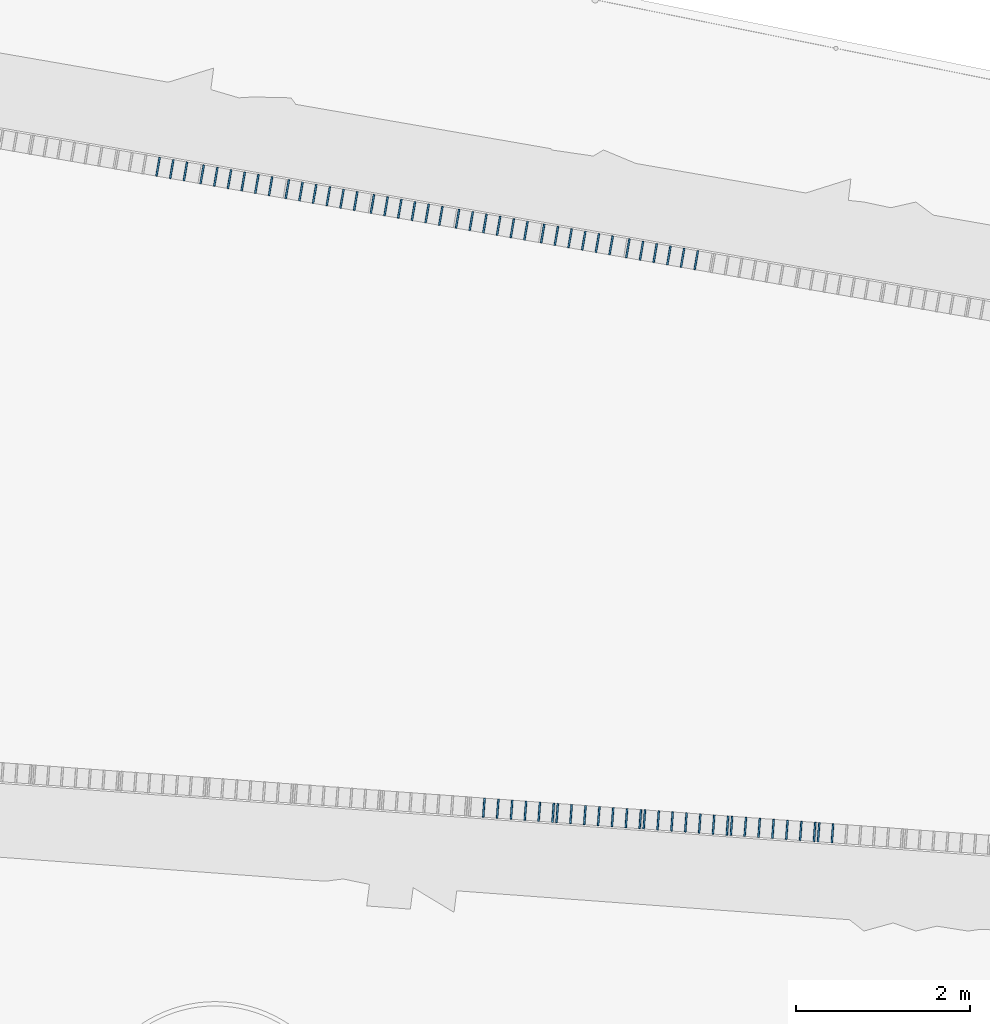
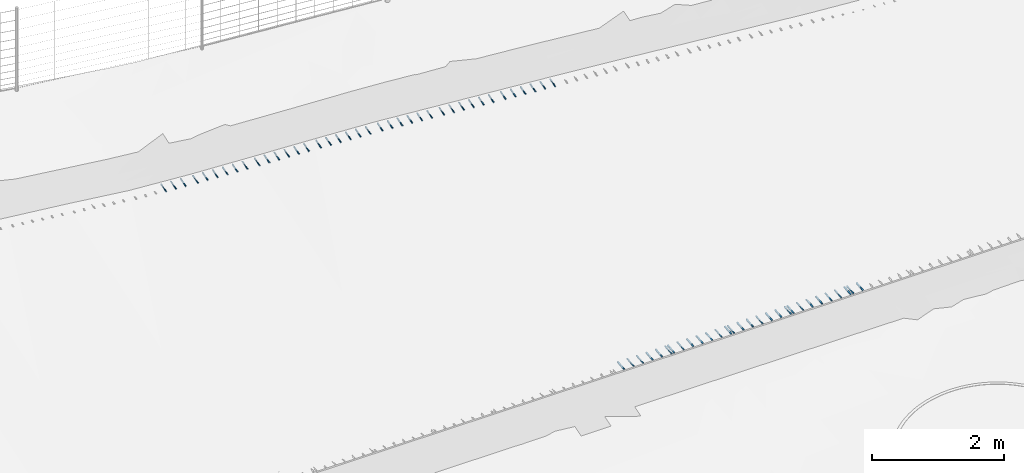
# Not in any storey, part 18 of 72: 68 members.
"""IFC4 model written with IfcOpenShell, lengths in metres."""

from ifc_helpers import new_model, si_unit, direction, frame, origin_with_axes, place, context, subcontext, project, spatial, rectangle, extrude, material, material_profile, profile_set, profile_usage, type_object, element, save


model = new_model("IFC4")

# Units and contexts
model_context = context("Model", 3, precision=1e-05, world=origin_with_axes(), true_north=direction((0.0, 1.0)))
body_context = subcontext(model_context, "Body", "Model", "MODEL_VIEW")
ifc_project = project(units=[si_unit("AREAUNIT", "SQUARE_METRE"), si_unit("VOLUMEUNIT", "CUBIC_METRE"), si_unit("LENGTHUNIT", "METRE")], contexts=[model_context])

# Site
site_placement = place(None, origin_with_axes())
site = spatial("IfcSite", under=ifc_project, at=site_placement, Name="Lares · Rua das Mercês · artigo 4771")

# Members
ifc_material = material(Name="Aço galvanizado / Stahl verzinkt", Category="steel")
ifc_material_profile = material_profile(ifc_material, rectangle(XDim=0.018, YDim=0.018))
ifc_profile_set = profile_set([ifc_material_profile], Name="R0.018")
ifc_profile_usage_1 = profile_usage(ifc_profile_set)
member_type = type_object("IfcMemberType", Name="R0.018 / galvanized", PredefinedType="NOTDEFINED", material=ifc_profile_set)
member_1_placement = place(site_placement, frame((63.9081223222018, 1.95257921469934, 15.0444120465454), z_axis=(0.0733052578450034, 0.997309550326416, 0.0), x_axis=(0.997309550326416, -0.0733052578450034, 0.0)))
element("IfcMember", 1, at=member_1_placement, inside=site, type_object=member_type, material=ifc_profile_usage_1, Name="Acesso · dreno lateral raso · grelha", context=body_context, shape_type="SweptSolid", body=[
    extrude(rectangle(XDim=0.018, YDim=0.018), origin_with_axes(), (0.0, 0.0, 1.0), 0.22),
])
ifc_profile_usage_2 = profile_usage(ifc_profile_set)
member_2_placement = place(site_placement, frame((64.067691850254, 1.94085037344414, 15.0536781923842), z_axis=(0.0733052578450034, 0.997309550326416, 0.0), x_axis=(0.997309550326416, -0.0733052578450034, 0.0)))
element("IfcMember", 2, at=member_2_placement, inside=site, type_object=member_type, material=ifc_profile_usage_2, Name="Acesso · dreno lateral raso · grelha", context=body_context, shape_type="SweptSolid", body=[
    extrude(rectangle(XDim=0.018, YDim=0.018), origin_with_axes(), (0.0, 0.0, 1.0), 0.22),
])
ifc_profile_usage_3 = profile_usage(ifc_profile_set)
member_3_placement = place(site_placement, frame((64.2272613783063, 1.92912153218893, 15.062944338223), z_axis=(0.0733052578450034, 0.997309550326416, 0.0), x_axis=(0.997309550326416, -0.0733052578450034, 0.0)))
element("IfcMember", 3, at=member_3_placement, inside=site, type_object=member_type, material=ifc_profile_usage_3, Name="Acesso · dreno lateral raso · grelha", context=body_context, shape_type="SweptSolid", body=[
    extrude(rectangle(XDim=0.018, YDim=0.018), origin_with_axes(), (0.0, 0.0, 1.0), 0.22),
])
ifc_profile_usage_4 = profile_usage(ifc_profile_set)
member_4_placement = place(site_placement, frame((64.3868309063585, 1.91739269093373, 15.0722104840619), z_axis=(0.0733052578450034, 0.997309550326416, 0.0), x_axis=(0.997309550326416, -0.0733052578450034, 0.0)))
element("IfcMember", 4, at=member_4_placement, inside=site, type_object=member_type, material=ifc_profile_usage_4, Name="Acesso · dreno lateral raso · grelha", context=body_context, shape_type="SweptSolid", body=[
    extrude(rectangle(XDim=0.018, YDim=0.018), origin_with_axes(), (0.0, 0.0, 1.0), 0.22),
])
ifc_profile_usage_5 = profile_usage(ifc_profile_set)
member_5_placement = place(site_placement, frame((64.5464004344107, 1.90566384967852, 15.0814766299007), z_axis=(0.0733052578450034, 0.997309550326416, 0.0), x_axis=(0.997309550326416, -0.0733052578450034, 0.0)))
element("IfcMember", 5, at=member_5_placement, inside=site, type_object=member_type, material=ifc_profile_usage_5, Name="Acesso · dreno lateral raso · grelha", context=body_context, shape_type="SweptSolid", body=[
    extrude(rectangle(XDim=0.018, YDim=0.018), origin_with_axes(), (0.0, 0.0, 1.0), 0.22),
])
ifc_profile_usage_6 = profile_usage(ifc_profile_set)
member_6_placement = place(site_placement, frame((64.7059699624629, 1.89393500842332, 15.0907427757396), z_axis=(0.0733052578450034, 0.997309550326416, 0.0), x_axis=(0.997309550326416, -0.0733052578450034, 0.0)))
element("IfcMember", 6, at=member_6_placement, inside=site, type_object=member_type, material=ifc_profile_usage_6, Name="Acesso · dreno lateral raso · grelha", context=body_context, shape_type="SweptSolid", body=[
    extrude(rectangle(XDim=0.018, YDim=0.018), origin_with_axes(), (0.0, 0.0, 1.0), 0.22),
])
ifc_profile_usage_7 = profile_usage(ifc_profile_set)
member_7_placement = place(site_placement, frame((64.7526489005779, 1.89050396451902, 15.0934534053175), z_axis=(0.0733052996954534, 0.997309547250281, 0.0), x_axis=(0.997309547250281, -0.0733052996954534, 0.0)))
element("IfcMember", 7, at=member_7_placement, inside=site, type_object=member_type, material=ifc_profile_usage_7, Name="Acesso · dreno lateral raso · grelha", context=body_context, shape_type="SweptSolid", body=[
    extrude(rectangle(XDim=0.018, YDim=0.018), origin_with_axes(), (0.0, 0.0, 1.0), 0.220000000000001),
])
ifc_profile_usage_8 = profile_usage(ifc_profile_set)
member_8_placement = place(site_placement, frame((64.9122184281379, 1.87877511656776, 15.1027195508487), z_axis=(0.0733052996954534, 0.997309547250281, 0.0), x_axis=(0.997309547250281, -0.0733052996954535, 0.0)))
element("IfcMember", 8, at=member_8_placement, inside=site, type_object=member_type, material=ifc_profile_usage_8, Name="Acesso · dreno lateral raso · grelha", context=body_context, shape_type="SweptSolid", body=[
    extrude(rectangle(XDim=0.018, YDim=0.018), origin_with_axes(), (0.0, 0.0, 1.0), 0.22),
])
ifc_profile_usage_9 = profile_usage(ifc_profile_set)
member_9_placement = place(site_placement, frame((65.0717879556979, 1.86704626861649, 15.1119856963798), z_axis=(0.0733052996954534, 0.997309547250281, 0.0), x_axis=(0.997309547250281, -0.0733052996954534, 0.0)))
element("IfcMember", 9, at=member_9_placement, inside=site, type_object=member_type, material=ifc_profile_usage_9, Name="Acesso · dreno lateral raso · grelha", context=body_context, shape_type="SweptSolid", body=[
    extrude(rectangle(XDim=0.018, YDim=0.018), origin_with_axes(), (0.0, 0.0, 1.0), 0.220000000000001),
])
ifc_profile_usage_10 = profile_usage(ifc_profile_set)
member_10_placement = place(site_placement, frame((65.231357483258, 1.85531742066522, 15.1212518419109), z_axis=(0.0733052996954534, 0.997309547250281, 0.0), x_axis=(0.997309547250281, -0.0733052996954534, 0.0)))
element("IfcMember", 10, at=member_10_placement, inside=site, type_object=member_type, material=ifc_profile_usage_10, Name="Acesso · dreno lateral raso · grelha", context=body_context, shape_type="SweptSolid", body=[
    extrude(rectangle(XDim=0.018, YDim=0.018), origin_with_axes(), (0.0, 0.0, 1.0), 0.220000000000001),
])
ifc_profile_usage_11 = profile_usage(ifc_profile_set)
member_11_placement = place(site_placement, frame((65.390927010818, 1.84358857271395, 15.130517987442), z_axis=(0.0733052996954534, 0.997309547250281, 0.0), x_axis=(0.997309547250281, -0.0733052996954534, 0.0)))
element("IfcMember", 11, at=member_11_placement, inside=site, type_object=member_type, material=ifc_profile_usage_11, Name="Acesso · dreno lateral raso · grelha", context=body_context, shape_type="SweptSolid", body=[
    extrude(rectangle(XDim=0.018, YDim=0.018), origin_with_axes(), (0.0, 0.0, 1.0), 0.220000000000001),
])
ifc_profile_usage_12 = profile_usage(ifc_profile_set)
member_12_placement = place(site_placement, frame((65.5504965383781, 1.83185972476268, 15.1397841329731), z_axis=(0.0733052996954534, 0.997309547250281, 0.0), x_axis=(0.997309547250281, -0.0733052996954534, 0.0)))
element("IfcMember", 12, at=member_12_placement, inside=site, type_object=member_type, material=ifc_profile_usage_12, Name="Acesso · dreno lateral raso · grelha", context=body_context, shape_type="SweptSolid", body=[
    extrude(rectangle(XDim=0.018, YDim=0.018), origin_with_axes(), (0.0, 0.0, 1.0), 0.220000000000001),
])
ifc_profile_usage_13 = profile_usage(ifc_profile_set)
member_13_placement = place(site_placement, frame((65.7100660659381, 1.82013087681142, 15.1490502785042), z_axis=(0.0733052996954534, 0.997309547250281, 0.0), x_axis=(0.997309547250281, -0.0733052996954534, 0.0)))
element("IfcMember", 13, at=member_13_placement, inside=site, type_object=member_type, material=ifc_profile_usage_13, Name="Acesso · dreno lateral raso · grelha", context=body_context, shape_type="SweptSolid", body=[
    extrude(rectangle(XDim=0.018, YDim=0.018), origin_with_axes(), (0.0, 0.0, 1.0), 0.220000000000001),
])
ifc_profile_usage_14 = profile_usage(ifc_profile_set)
member_14_placement = place(site_placement, frame((65.7567387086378, 1.81670029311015, 15.1518014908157), z_axis=(0.0733053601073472, 0.99730954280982, 0.0), x_axis=(0.99730954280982, -0.0733053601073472, 0.0)))
element("IfcMember", 14, at=member_14_placement, inside=site, type_object=member_type, material=ifc_profile_usage_14, Name="Acesso · dreno lateral raso · grelha", context=body_context, shape_type="SweptSolid", body=[
    extrude(rectangle(XDim=0.018, YDim=0.018), origin_with_axes(), (0.0, 0.0, 1.0), 0.22),
])
ifc_profile_usage_15 = profile_usage(ifc_profile_set)
member_15_placement = place(site_placement, frame((65.9163082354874, 1.80497143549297, 15.1612860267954), z_axis=(0.0733053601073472, 0.99730954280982, 0.0), x_axis=(0.99730954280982, -0.0733053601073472, 0.0)))
element("IfcMember", 15, at=member_15_placement, inside=site, type_object=member_type, material=ifc_profile_usage_15, Name="Acesso · dreno lateral raso · grelha", context=body_context, shape_type="SweptSolid", body=[
    extrude(rectangle(XDim=0.018, YDim=0.018), origin_with_axes(), (0.0, 0.0, 1.0), 0.22),
])
ifc_profile_usage_16 = profile_usage(ifc_profile_set)
member_16_placement = place(site_placement, frame((66.0758777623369, 1.7932425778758, 15.1707705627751), z_axis=(0.0733053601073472, 0.99730954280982, 0.0), x_axis=(0.99730954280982, -0.0733053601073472, 0.0)))
element("IfcMember", 16, at=member_16_placement, inside=site, type_object=member_type, material=ifc_profile_usage_16, Name="Acesso · dreno lateral raso · grelha", context=body_context, shape_type="SweptSolid", body=[
    extrude(rectangle(XDim=0.018, YDim=0.018), origin_with_axes(), (0.0, 0.0, 1.0), 0.22),
])
ifc_profile_usage_17 = profile_usage(ifc_profile_set)
member_17_placement = place(site_placement, frame((66.2354472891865, 1.78151372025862, 15.1802550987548), z_axis=(0.0733053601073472, 0.99730954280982, 0.0), x_axis=(0.99730954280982, -0.0733053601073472, 0.0)))
element("IfcMember", 17, at=member_17_placement, inside=site, type_object=member_type, material=ifc_profile_usage_17, Name="Acesso · dreno lateral raso · grelha", context=body_context, shape_type="SweptSolid", body=[
    extrude(rectangle(XDim=0.018, YDim=0.018), origin_with_axes(), (0.0, 0.0, 1.0), 0.22),
])
ifc_profile_usage_18 = profile_usage(ifc_profile_set)
member_18_placement = place(site_placement, frame((66.3950168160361, 1.76978486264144, 15.1897396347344), z_axis=(0.0733053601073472, 0.99730954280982, 0.0), x_axis=(0.99730954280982, -0.0733053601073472, 0.0)))
element("IfcMember", 18, at=member_18_placement, inside=site, type_object=member_type, material=ifc_profile_usage_18, Name="Acesso · dreno lateral raso · grelha", context=body_context, shape_type="SweptSolid", body=[
    extrude(rectangle(XDim=0.018, YDim=0.018), origin_with_axes(), (0.0, 0.0, 1.0), 0.22),
])
ifc_profile_usage_19 = profile_usage(ifc_profile_set)
member_19_placement = place(site_placement, frame((66.5545863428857, 1.75805600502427, 15.1992241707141), z_axis=(0.0733053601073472, 0.99730954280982, 0.0), x_axis=(0.99730954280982, -0.0733053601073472, 0.0)))
element("IfcMember", 19, at=member_19_placement, inside=site, type_object=member_type, material=ifc_profile_usage_19, Name="Acesso · dreno lateral raso · grelha", context=body_context, shape_type="SweptSolid", body=[
    extrude(rectangle(XDim=0.018, YDim=0.018), origin_with_axes(), (0.0, 0.0, 1.0), 0.22),
])
ifc_profile_usage_20 = profile_usage(ifc_profile_set)
member_20_placement = place(site_placement, frame((66.7141558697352, 1.7463271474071, 15.2087087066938), z_axis=(0.0733053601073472, 0.99730954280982, 0.0), x_axis=(0.99730954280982, -0.0733053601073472, 0.0)))
element("IfcMember", 20, at=member_20_placement, inside=site, type_object=member_type, material=ifc_profile_usage_20, Name="Acesso · dreno lateral raso · grelha", context=body_context, shape_type="SweptSolid", body=[
    extrude(rectangle(XDim=0.018, YDim=0.018), origin_with_axes(), (0.0, 0.0, 1.0), 0.22),
])
ifc_profile_usage_21 = profile_usage(ifc_profile_set)
member_21_placement = place(site_placement, frame((66.7608219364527, 1.74289704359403, 15.2114842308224), z_axis=(0.0733054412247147, 0.997309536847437, 0.0), x_axis=(0.997309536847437, -0.0733054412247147, 0.0)))
element("IfcMember", 21, at=member_21_placement, inside=site, type_object=member_type, material=ifc_profile_usage_21, Name="Acesso · dreno lateral raso · grelha", context=body_context, shape_type="SweptSolid", body=[
    extrude(rectangle(XDim=0.018, YDim=0.018), origin_with_axes(), (0.0, 0.0, 1.0), 0.22),
])
ifc_profile_usage_22 = profile_usage(ifc_profile_set)
member_22_placement = place(site_placement, frame((66.9203914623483, 1.73116817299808, 15.2209782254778), z_axis=(0.0733054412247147, 0.997309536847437, 0.0), x_axis=(0.997309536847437, -0.0733054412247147, 0.0)))
element("IfcMember", 22, at=member_22_placement, inside=site, type_object=member_type, material=ifc_profile_usage_22, Name="Acesso · dreno lateral raso · grelha", context=body_context, shape_type="SweptSolid", body=[
    extrude(rectangle(XDim=0.018, YDim=0.018), origin_with_axes(), (0.0, 0.0, 1.0), 0.22),
])
ifc_profile_usage_23 = profile_usage(ifc_profile_set)
member_23_placement = place(site_placement, frame((67.0799609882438, 1.71943930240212, 15.2304722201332), z_axis=(0.0733054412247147, 0.997309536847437, 0.0), x_axis=(0.997309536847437, -0.0733054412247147, 0.0)))
element("IfcMember", 23, at=member_23_placement, inside=site, type_object=member_type, material=ifc_profile_usage_23, Name="Acesso · dreno lateral raso · grelha", context=body_context, shape_type="SweptSolid", body=[
    extrude(rectangle(XDim=0.018, YDim=0.018), origin_with_axes(), (0.0, 0.0, 1.0), 0.22),
])
ifc_profile_usage_24 = profile_usage(ifc_profile_set)
member_24_placement = place(site_placement, frame((67.2395305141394, 1.70771043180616, 15.2399662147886), z_axis=(0.0733054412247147, 0.997309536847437, 0.0), x_axis=(0.997309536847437, -0.0733054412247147, 0.0)))
element("IfcMember", 24, at=member_24_placement, inside=site, type_object=member_type, material=ifc_profile_usage_24, Name="Acesso · dreno lateral raso · grelha", context=body_context, shape_type="SweptSolid", body=[
    extrude(rectangle(XDim=0.018, YDim=0.018), origin_with_axes(), (0.0, 0.0, 1.0), 0.22),
])
ifc_profile_usage_25 = profile_usage(ifc_profile_set)
member_25_placement = place(site_placement, frame((67.399100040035, 1.69598156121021, 15.249460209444), z_axis=(0.0733054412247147, 0.997309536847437, 0.0), x_axis=(0.997309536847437, -0.0733054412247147, 0.0)))
element("IfcMember", 25, at=member_25_placement, inside=site, type_object=member_type, material=ifc_profile_usage_25, Name="Acesso · dreno lateral raso · grelha", context=body_context, shape_type="SweptSolid", body=[
    extrude(rectangle(XDim=0.018, YDim=0.018), origin_with_axes(), (0.0, 0.0, 1.0), 0.22),
])
ifc_profile_usage_26 = profile_usage(ifc_profile_set)
member_26_placement = place(site_placement, frame((67.5586695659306, 1.68425269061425, 15.2589542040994), z_axis=(0.0733054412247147, 0.997309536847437, 0.0), x_axis=(0.997309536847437, -0.0733054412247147, 0.0)))
element("IfcMember", 26, at=member_26_placement, inside=site, type_object=member_type, material=ifc_profile_usage_26, Name="Acesso · dreno lateral raso · grelha", context=body_context, shape_type="SweptSolid", body=[
    extrude(rectangle(XDim=0.018, YDim=0.018), origin_with_axes(), (0.0, 0.0, 1.0), 0.22),
])
ifc_profile_usage_27 = profile_usage(ifc_profile_set)
member_27_placement = place(site_placement, frame((67.7182390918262, 1.6725238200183, 15.2684481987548), z_axis=(0.0733054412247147, 0.997309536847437, 0.0), x_axis=(0.997309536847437, -0.0733054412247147, 0.0)))
element("IfcMember", 27, at=member_27_placement, inside=site, type_object=member_type, material=ifc_profile_usage_27, Name="Acesso · dreno lateral raso · grelha", context=body_context, shape_type="SweptSolid", body=[
    extrude(rectangle(XDim=0.018, YDim=0.018), origin_with_axes(), (0.0, 0.0, 1.0), 0.22),
])
ifc_profile_usage_28 = profile_usage(ifc_profile_set)
member_28_placement = place(site_placement, frame((67.7648982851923, 1.66909421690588, 15.2712243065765), z_axis=(0.0733055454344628, 0.997309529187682, 0.0), x_axis=(0.997309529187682, -0.0733055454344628, 0.0)))
element("IfcMember", 28, at=member_28_placement, inside=site, type_object=member_type, material=ifc_profile_usage_28, Name="Acesso · dreno lateral raso · grelha", context=body_context, shape_type="SweptSolid", body=[
    extrude(rectangle(XDim=0.018, YDim=0.018), origin_with_axes(), (0.0, 0.0, 1.0), 0.219999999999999),
])
ifc_profile_usage_29 = profile_usage(ifc_profile_set)
member_29_placement = place(site_placement, frame((67.9244678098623, 1.65736532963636, 15.2807183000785), z_axis=(0.0733055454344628, 0.997309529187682, 0.0), x_axis=(0.997309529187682, -0.0733055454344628, 0.0)))
element("IfcMember", 29, at=member_29_placement, inside=site, type_object=member_type, material=ifc_profile_usage_29, Name="Acesso · dreno lateral raso · grelha", context=body_context, shape_type="SweptSolid", body=[
    extrude(rectangle(XDim=0.018, YDim=0.018), origin_with_axes(), (0.0, 0.0, 1.0), 0.219999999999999),
])
ifc_profile_usage_30 = profile_usage(ifc_profile_set)
member_30_placement = place(site_placement, frame((60.1432978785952, 9.3389832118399, 15.1773439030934), z_axis=(0.171145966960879, 0.98524568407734, 0.0), x_axis=(0.98524568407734, -0.171145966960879, 0.0)))
element("IfcMember", 30, at=member_30_placement, inside=site, type_object=member_type, material=ifc_profile_usage_30, Name="Acesso · dreno lateral raso · grelha", context=body_context, shape_type="SweptSolid", body=[
    extrude(rectangle(XDim=0.018, YDim=0.018), origin_with_axes(), (0.0, 0.0, 1.0), 0.220000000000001),
])
ifc_profile_usage_31 = profile_usage(ifc_profile_set)
member_31_placement = place(site_placement, frame((60.3009371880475, 9.31159985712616, 15.1873326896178), z_axis=(0.171145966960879, 0.98524568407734, 0.0), x_axis=(0.98524568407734, -0.171145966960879, 0.0)))
element("IfcMember", 31, at=member_31_placement, inside=site, type_object=member_type, material=ifc_profile_usage_31, Name="Acesso · dreno lateral raso · grelha", context=body_context, shape_type="SweptSolid", body=[
    extrude(rectangle(XDim=0.018, YDim=0.018), origin_with_axes(), (0.0, 0.0, 1.0), 0.220000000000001),
])
ifc_profile_usage_32 = profile_usage(ifc_profile_set)
member_32_placement = place(site_placement, frame((60.4585764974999, 9.28421650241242, 15.1973214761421), z_axis=(0.171145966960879, 0.98524568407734, 0.0), x_axis=(0.98524568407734, -0.171145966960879, 0.0)))
element("IfcMember", 32, at=member_32_placement, inside=site, type_object=member_type, material=ifc_profile_usage_32, Name="Acesso · dreno lateral raso · grelha", context=body_context, shape_type="SweptSolid", body=[
    extrude(rectangle(XDim=0.018, YDim=0.018), origin_with_axes(), (0.0, 0.0, 1.0), 0.220000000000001),
])
ifc_profile_usage_33 = profile_usage(ifc_profile_set)
member_33_placement = place(site_placement, frame((60.6512918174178, 9.25074014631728, 15.2102114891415), z_axis=(0.171145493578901, 0.985245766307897, 0.0), x_axis=(0.985245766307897, -0.171145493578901, 0.0)))
element("IfcMember", 33, at=member_33_placement, inside=site, type_object=member_type, material=ifc_profile_usage_33, Name="Acesso · dreno lateral raso · grelha", context=body_context, shape_type="SweptSolid", body=[
    extrude(rectangle(XDim=0.018, YDim=0.018), origin_with_axes(), (0.0, 0.0, 1.0), 0.219999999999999),
])
ifc_profile_usage_34 = profile_usage(ifc_profile_set)
member_34_placement = place(site_placement, frame((60.808931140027, 9.22335686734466, 15.2238197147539), z_axis=(0.171145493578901, 0.985245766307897, 0.0), x_axis=(0.985245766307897, -0.171145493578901, 0.0)))
element("IfcMember", 34, at=member_34_placement, inside=site, type_object=member_type, material=ifc_profile_usage_34, Name="Acesso · dreno lateral raso · grelha", context=body_context, shape_type="SweptSolid", body=[
    extrude(rectangle(XDim=0.018, YDim=0.018), origin_with_axes(), (0.0, 0.0, 1.0), 0.219999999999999),
])
ifc_profile_usage_35 = profile_usage(ifc_profile_set)
member_35_placement = place(site_placement, frame((60.9665704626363, 9.19597358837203, 15.2374279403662), z_axis=(0.171145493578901, 0.985245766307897, 0.0), x_axis=(0.985245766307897, -0.171145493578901, 0.0)))
element("IfcMember", 35, at=member_35_placement, inside=site, type_object=member_type, material=ifc_profile_usage_35, Name="Acesso · dreno lateral raso · grelha", context=body_context, shape_type="SweptSolid", body=[
    extrude(rectangle(XDim=0.018, YDim=0.018), origin_with_axes(), (0.0, 0.0, 1.0), 0.219999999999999),
])
ifc_profile_usage_36 = profile_usage(ifc_profile_set)
member_36_placement = place(site_placement, frame((61.1242097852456, 9.16859030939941, 15.2510361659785), z_axis=(0.171145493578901, 0.985245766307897, 0.0), x_axis=(0.985245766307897, -0.171145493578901, 0.0)))
element("IfcMember", 36, at=member_36_placement, inside=site, type_object=member_type, material=ifc_profile_usage_36, Name="Acesso · dreno lateral raso · grelha", context=body_context, shape_type="SweptSolid", body=[
    extrude(rectangle(XDim=0.018, YDim=0.018), origin_with_axes(), (0.0, 0.0, 1.0), 0.219999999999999),
])
ifc_profile_usage_37 = profile_usage(ifc_profile_set)
member_37_placement = place(site_placement, frame((61.2818491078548, 9.14120703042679, 15.2646443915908), z_axis=(0.171145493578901, 0.985245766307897, 0.0), x_axis=(0.985245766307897, -0.171145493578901, 0.0)))
element("IfcMember", 37, at=member_37_placement, inside=site, type_object=member_type, material=ifc_profile_usage_37, Name="Acesso · dreno lateral raso · grelha", context=body_context, shape_type="SweptSolid", body=[
    extrude(rectangle(XDim=0.018, YDim=0.018), origin_with_axes(), (0.0, 0.0, 1.0), 0.219999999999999),
])
ifc_profile_usage_38 = profile_usage(ifc_profile_set)
member_38_placement = place(site_placement, frame((61.4394884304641, 9.11382375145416, 15.2782526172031), z_axis=(0.171145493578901, 0.985245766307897, 0.0), x_axis=(0.985245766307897, -0.171145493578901, 0.0)))
element("IfcMember", 38, at=member_38_placement, inside=site, type_object=member_type, material=ifc_profile_usage_38, Name="Acesso · dreno lateral raso · grelha", context=body_context, shape_type="SweptSolid", body=[
    extrude(rectangle(XDim=0.018, YDim=0.018), origin_with_axes(), (0.0, 0.0, 1.0), 0.219999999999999),
])
ifc_profile_usage_39 = profile_usage(ifc_profile_set)
member_39_placement = place(site_placement, frame((61.6322087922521, 9.08034661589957, 15.2949844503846), z_axis=(0.171144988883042, 0.985245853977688, 0.0), x_axis=(0.985245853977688, -0.171144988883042, 0.0)))
element("IfcMember", 39, at=member_39_placement, inside=site, type_object=member_type, material=ifc_profile_usage_39, Name="Acesso · dreno lateral raso · grelha", context=body_context, shape_type="SweptSolid", body=[
    extrude(rectangle(XDim=0.018, YDim=0.018), origin_with_axes(), (0.0, 0.0, 1.0), 0.220000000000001),
])
ifc_profile_usage_40 = profile_usage(ifc_profile_set)
member_40_placement = place(site_placement, frame((61.7898481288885, 9.05296341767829, 15.3091006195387), z_axis=(0.171144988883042, 0.985245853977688, 0.0), x_axis=(0.985245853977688, -0.171144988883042, 0.0)))
element("IfcMember", 40, at=member_40_placement, inside=site, type_object=member_type, material=ifc_profile_usage_40, Name="Acesso · dreno lateral raso · grelha", context=body_context, shape_type="SweptSolid", body=[
    extrude(rectangle(XDim=0.018, YDim=0.018), origin_with_axes(), (0.0, 0.0, 1.0), 0.220000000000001),
])
ifc_profile_usage_41 = profile_usage(ifc_profile_set)
member_41_placement = place(site_placement, frame((61.9474874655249, 9.025580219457, 15.3232167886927), z_axis=(0.171144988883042, 0.985245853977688, 0.0), x_axis=(0.985245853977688, -0.171144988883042, 0.0)))
element("IfcMember", 41, at=member_41_placement, inside=site, type_object=member_type, material=ifc_profile_usage_41, Name="Acesso · dreno lateral raso · grelha", context=body_context, shape_type="SweptSolid", body=[
    extrude(rectangle(XDim=0.018, YDim=0.018), origin_with_axes(), (0.0, 0.0, 1.0), 0.220000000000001),
])
ifc_profile_usage_42 = profile_usage(ifc_profile_set)
member_42_placement = place(site_placement, frame((62.1051268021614, 8.99819702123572, 15.3373329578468), z_axis=(0.171144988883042, 0.985245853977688, 0.0), x_axis=(0.985245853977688, -0.171144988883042, 0.0)))
element("IfcMember", 42, at=member_42_placement, inside=site, type_object=member_type, material=ifc_profile_usage_42, Name="Acesso · dreno lateral raso · grelha", context=body_context, shape_type="SweptSolid", body=[
    extrude(rectangle(XDim=0.018, YDim=0.018), origin_with_axes(), (0.0, 0.0, 1.0), 0.220000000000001),
])
ifc_profile_usage_43 = profile_usage(ifc_profile_set)
member_43_placement = place(site_placement, frame((62.2627661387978, 8.97081382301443, 15.3514491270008), z_axis=(0.171144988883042, 0.985245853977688, 0.0), x_axis=(0.985245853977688, -0.171144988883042, 0.0)))
element("IfcMember", 43, at=member_43_placement, inside=site, type_object=member_type, material=ifc_profile_usage_43, Name="Acesso · dreno lateral raso · grelha", context=body_context, shape_type="SweptSolid", body=[
    extrude(rectangle(XDim=0.018, YDim=0.018), origin_with_axes(), (0.0, 0.0, 1.0), 0.220000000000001),
])
ifc_profile_usage_44 = profile_usage(ifc_profile_set)
member_44_placement = place(site_placement, frame((62.4204054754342, 8.94343062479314, 15.3655652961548), z_axis=(0.171144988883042, 0.985245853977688, 0.0), x_axis=(0.985245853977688, -0.171144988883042, 0.0)))
element("IfcMember", 44, at=member_44_placement, inside=site, type_object=member_type, material=ifc_profile_usage_44, Name="Acesso · dreno lateral raso · grelha", context=body_context, shape_type="SweptSolid", body=[
    extrude(rectangle(XDim=0.018, YDim=0.018), origin_with_axes(), (0.0, 0.0, 1.0), 0.220000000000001),
])
ifc_profile_usage_45 = profile_usage(ifc_profile_set)
member_45_placement = place(site_placement, frame((62.6131310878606, 8.90995267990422, 15.3825225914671), z_axis=(0.17114445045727, 0.985245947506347, 0.0), x_axis=(0.985245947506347, -0.17114445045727, 0.0)))
element("IfcMember", 45, at=member_45_placement, inside=site, type_object=member_type, material=ifc_profile_usage_45, Name="Acesso · dreno lateral raso · grelha", context=body_context, shape_type="SweptSolid", body=[
    extrude(rectangle(XDim=0.018, YDim=0.018), origin_with_axes(), (0.0, 0.0, 1.0), 0.220000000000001),
])
ifc_profile_usage_46 = profile_usage(ifc_profile_set)
member_46_placement = place(site_placement, frame((62.7707704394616, 8.88256956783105, 15.3950347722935), z_axis=(0.17114445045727, 0.985245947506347, 0.0), x_axis=(0.985245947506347, -0.17114445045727, 0.0)))
element("IfcMember", 46, at=member_46_placement, inside=site, type_object=member_type, material=ifc_profile_usage_46, Name="Acesso · dreno lateral raso · grelha", context=body_context, shape_type="SweptSolid", body=[
    extrude(rectangle(XDim=0.018, YDim=0.018), origin_with_axes(), (0.0, 0.0, 1.0), 0.220000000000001),
])
ifc_profile_usage_47 = profile_usage(ifc_profile_set)
member_47_placement = place(site_placement, frame((62.9284097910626, 8.85518645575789, 15.4075469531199), z_axis=(0.17114445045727, 0.985245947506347, 0.0), x_axis=(0.985245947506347, -0.17114445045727, 0.0)))
element("IfcMember", 47, at=member_47_placement, inside=site, type_object=member_type, material=ifc_profile_usage_47, Name="Acesso · dreno lateral raso · grelha", context=body_context, shape_type="SweptSolid", body=[
    extrude(rectangle(XDim=0.018, YDim=0.018), origin_with_axes(), (0.0, 0.0, 1.0), 0.220000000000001),
])
ifc_profile_usage_48 = profile_usage(ifc_profile_set)
member_48_placement = place(site_placement, frame((63.0860491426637, 8.82780334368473, 15.4200591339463), z_axis=(0.17114445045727, 0.985245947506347, 0.0), x_axis=(0.985245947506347, -0.17114445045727, 0.0)))
element("IfcMember", 48, at=member_48_placement, inside=site, type_object=member_type, material=ifc_profile_usage_48, Name="Acesso · dreno lateral raso · grelha", context=body_context, shape_type="SweptSolid", body=[
    extrude(rectangle(XDim=0.018, YDim=0.018), origin_with_axes(), (0.0, 0.0, 1.0), 0.220000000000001),
])
ifc_profile_usage_49 = profile_usage(ifc_profile_set)
member_49_placement = place(site_placement, frame((63.2436884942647, 8.80042023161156, 15.4325713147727), z_axis=(0.17114445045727, 0.985245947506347, 0.0), x_axis=(0.985245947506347, -0.17114445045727, 0.0)))
element("IfcMember", 49, at=member_49_placement, inside=site, type_object=member_type, material=ifc_profile_usage_49, Name="Acesso · dreno lateral raso · grelha", context=body_context, shape_type="SweptSolid", body=[
    extrude(rectangle(XDim=0.018, YDim=0.018), origin_with_axes(), (0.0, 0.0, 1.0), 0.220000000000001),
])
ifc_profile_usage_50 = profile_usage(ifc_profile_set)
member_50_placement = place(site_placement, frame((63.4013278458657, 8.7730371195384, 15.4450834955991), z_axis=(0.17114445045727, 0.985245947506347, 0.0), x_axis=(0.985245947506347, -0.17114445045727, 0.0)))
element("IfcMember", 50, at=member_50_placement, inside=site, type_object=member_type, material=ifc_profile_usage_50, Name="Acesso · dreno lateral raso · grelha", context=body_context, shape_type="SweptSolid", body=[
    extrude(rectangle(XDim=0.018, YDim=0.018), origin_with_axes(), (0.0, 0.0, 1.0), 0.220000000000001),
])
ifc_profile_usage_51 = profile_usage(ifc_profile_set)
member_51_placement = place(site_placement, frame((63.5940589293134, 8.73955833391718, 15.4596026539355), z_axis=(0.171143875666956, 0.985246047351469, 0.0), x_axis=(0.985246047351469, -0.171143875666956, 0.0)))
element("IfcMember", 51, at=member_51_placement, inside=site, type_object=member_type, material=ifc_profile_usage_51, Name="Acesso · dreno lateral raso · grelha", context=body_context, shape_type="SweptSolid", body=[
    extrude(rectangle(XDim=0.018, YDim=0.018), origin_with_axes(), (0.0, 0.0, 1.0), 0.219999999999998),
])
ifc_profile_usage_52 = profile_usage(ifc_profile_set)
member_52_placement = place(site_placement, frame((63.7516982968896, 8.71217531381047, 15.467963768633), z_axis=(0.171143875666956, 0.985246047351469, 0.0), x_axis=(0.985246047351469, -0.171143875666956, 0.0)))
element("IfcMember", 52, at=member_52_placement, inside=site, type_object=member_type, material=ifc_profile_usage_52, Name="Acesso · dreno lateral raso · grelha", context=body_context, shape_type="SweptSolid", body=[
    extrude(rectangle(XDim=0.018, YDim=0.018), origin_with_axes(), (0.0, 0.0, 1.0), 0.219999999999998),
])
ifc_profile_usage_53 = profile_usage(ifc_profile_set)
member_53_placement = place(site_placement, frame((63.9093376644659, 8.68479229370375, 15.4763248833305), z_axis=(0.171143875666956, 0.985246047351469, 0.0), x_axis=(0.985246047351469, -0.171143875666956, 0.0)))
element("IfcMember", 53, at=member_53_placement, inside=site, type_object=member_type, material=ifc_profile_usage_53, Name="Acesso · dreno lateral raso · grelha", context=body_context, shape_type="SweptSolid", body=[
    extrude(rectangle(XDim=0.018, YDim=0.018), origin_with_axes(), (0.0, 0.0, 1.0), 0.219999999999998),
])
ifc_profile_usage_54 = profile_usage(ifc_profile_set)
member_54_placement = place(site_placement, frame((64.0669770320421, 8.65740927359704, 15.484685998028), z_axis=(0.171143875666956, 0.985246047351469, 0.0), x_axis=(0.985246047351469, -0.171143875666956, 0.0)))
element("IfcMember", 54, at=member_54_placement, inside=site, type_object=member_type, material=ifc_profile_usage_54, Name="Acesso · dreno lateral raso · grelha", context=body_context, shape_type="SweptSolid", body=[
    extrude(rectangle(XDim=0.018, YDim=0.018), origin_with_axes(), (0.0, 0.0, 1.0), 0.219999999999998),
])
ifc_profile_usage_55 = profile_usage(ifc_profile_set)
member_55_placement = place(site_placement, frame((64.2246163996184, 8.63002625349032, 15.4930471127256), z_axis=(0.171143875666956, 0.985246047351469, 0.0), x_axis=(0.985246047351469, -0.171143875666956, 0.0)))
element("IfcMember", 55, at=member_55_placement, inside=site, type_object=member_type, material=ifc_profile_usage_55, Name="Acesso · dreno lateral raso · grelha", context=body_context, shape_type="SweptSolid", body=[
    extrude(rectangle(XDim=0.018, YDim=0.018), origin_with_axes(), (0.0, 0.0, 1.0), 0.219999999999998),
])
ifc_profile_usage_56 = profile_usage(ifc_profile_set)
member_56_placement = place(site_placement, frame((64.3822557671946, 8.60264323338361, 15.5014082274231), z_axis=(0.171143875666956, 0.985246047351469, 0.0), x_axis=(0.985246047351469, -0.171143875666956, 0.0)))
element("IfcMember", 56, at=member_56_placement, inside=site, type_object=member_type, material=ifc_profile_usage_56, Name="Acesso · dreno lateral raso · grelha", context=body_context, shape_type="SweptSolid", body=[
    extrude(rectangle(XDim=0.018, YDim=0.018), origin_with_axes(), (0.0, 0.0, 1.0), 0.219999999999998),
])
ifc_profile_usage_57 = profile_usage(ifc_profile_set)
member_57_placement = place(site_placement, frame((64.5749925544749, 8.5691635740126, 15.5116308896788), z_axis=(0.171143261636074, 0.985246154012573, 0.0), x_axis=(0.985246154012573, -0.171143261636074, 0.0)))
element("IfcMember", 57, at=member_57_placement, inside=site, type_object=member_type, material=ifc_profile_usage_57, Name="Acesso · dreno lateral raso · grelha", context=body_context, shape_type="SweptSolid", body=[
    extrude(rectangle(XDim=0.018, YDim=0.018), origin_with_axes(), (0.0, 0.0, 1.0), 0.220000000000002),
])
ifc_profile_usage_58 = profile_usage(ifc_profile_set)
member_58_placement = place(site_placement, frame((64.7326319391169, 8.54178065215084, 15.5199920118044), z_axis=(0.171143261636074, 0.985246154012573, 0.0), x_axis=(0.985246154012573, -0.171143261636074, 0.0)))
element("IfcMember", 58, at=member_58_placement, inside=site, type_object=member_type, material=ifc_profile_usage_58, Name="Acesso · dreno lateral raso · grelha", context=body_context, shape_type="SweptSolid", body=[
    extrude(rectangle(XDim=0.018, YDim=0.018), origin_with_axes(), (0.0, 0.0, 1.0), 0.220000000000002),
])
ifc_profile_usage_59 = profile_usage(ifc_profile_set)
member_59_placement = place(site_placement, frame((64.890271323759, 8.51439773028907, 15.5283531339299), z_axis=(0.171143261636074, 0.985246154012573, 0.0), x_axis=(0.985246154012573, -0.171143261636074, 0.0)))
element("IfcMember", 59, at=member_59_placement, inside=site, type_object=member_type, material=ifc_profile_usage_59, Name="Acesso · dreno lateral raso · grelha", context=body_context, shape_type="SweptSolid", body=[
    extrude(rectangle(XDim=0.018, YDim=0.018), origin_with_axes(), (0.0, 0.0, 1.0), 0.220000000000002),
])
ifc_profile_usage_60 = profile_usage(ifc_profile_set)
member_60_placement = place(site_placement, frame((65.0479107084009, 8.48701480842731, 15.5367142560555), z_axis=(0.171143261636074, 0.985246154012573, 0.0), x_axis=(0.985246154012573, -0.171143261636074, 0.0)))
element("IfcMember", 60, at=member_60_placement, inside=site, type_object=member_type, material=ifc_profile_usage_60, Name="Acesso · dreno lateral raso · grelha", context=body_context, shape_type="SweptSolid", body=[
    extrude(rectangle(XDim=0.018, YDim=0.018), origin_with_axes(), (0.0, 0.0, 1.0), 0.220000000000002),
])
ifc_profile_usage_61 = profile_usage(ifc_profile_set)
member_61_placement = place(site_placement, frame((65.2055500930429, 8.45963188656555, 15.545075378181), z_axis=(0.171143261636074, 0.985246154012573, 0.0), x_axis=(0.985246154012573, -0.171143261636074, 0.0)))
element("IfcMember", 61, at=member_61_placement, inside=site, type_object=member_type, material=ifc_profile_usage_61, Name="Acesso · dreno lateral raso · grelha", context=body_context, shape_type="SweptSolid", body=[
    extrude(rectangle(XDim=0.018, YDim=0.018), origin_with_axes(), (0.0, 0.0, 1.0), 0.220000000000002),
])
ifc_profile_usage_62 = profile_usage(ifc_profile_set)
member_62_placement = place(site_placement, frame((65.363189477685, 8.43224896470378, 15.5534365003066), z_axis=(0.171143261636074, 0.985246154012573, 0.0), x_axis=(0.985246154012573, -0.171143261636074, 0.0)))
element("IfcMember", 62, at=member_62_placement, inside=site, type_object=member_type, material=ifc_profile_usage_62, Name="Acesso · dreno lateral raso · grelha", context=body_context, shape_type="SweptSolid", body=[
    extrude(rectangle(XDim=0.018, YDim=0.018), origin_with_axes(), (0.0, 0.0, 1.0), 0.220000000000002),
])
ifc_profile_usage_63 = profile_usage(ifc_profile_set)
member_63_placement = place(site_placement, frame((65.5559322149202, 8.39876839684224, 15.5636594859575), z_axis=(0.171142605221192, 0.985246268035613, 0.0), x_axis=(0.985246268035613, -0.171142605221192, 0.0)))
element("IfcMember", 63, at=member_63_placement, inside=site, type_object=member_type, material=ifc_profile_usage_63, Name="Acesso · dreno lateral raso · grelha", context=body_context, shape_type="SweptSolid", body=[
    extrude(rectangle(XDim=0.018, YDim=0.018), origin_with_axes(), (0.0, 0.0, 1.0), 0.220000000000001),
])
ifc_profile_usage_64 = profile_usage(ifc_profile_set)
member_64_placement = place(site_placement, frame((65.7135716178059, 8.37138558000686, 15.5720206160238), z_axis=(0.171142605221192, 0.985246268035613, 0.0), x_axis=(0.985246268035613, -0.171142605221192, 0.0)))
element("IfcMember", 64, at=member_64_placement, inside=site, type_object=member_type, material=ifc_profile_usage_64, Name="Acesso · dreno lateral raso · grelha", context=body_context, shape_type="SweptSolid", body=[
    extrude(rectangle(XDim=0.018, YDim=0.018), origin_with_axes(), (0.0, 0.0, 1.0), 0.220000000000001),
])
ifc_profile_usage_65 = profile_usage(ifc_profile_set)
member_65_placement = place(site_placement, frame((65.8712110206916, 8.34400276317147, 15.5803817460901), z_axis=(0.171142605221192, 0.985246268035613, 0.0), x_axis=(0.985246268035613, -0.171142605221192, 0.0)))
element("IfcMember", 65, at=member_65_placement, inside=site, type_object=member_type, material=ifc_profile_usage_65, Name="Acesso · dreno lateral raso · grelha", context=body_context, shape_type="SweptSolid", body=[
    extrude(rectangle(XDim=0.018, YDim=0.018), origin_with_axes(), (0.0, 0.0, 1.0), 0.220000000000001),
])
ifc_profile_usage_66 = profile_usage(ifc_profile_set)
member_66_placement = place(site_placement, frame((66.0288504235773, 8.31661994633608, 15.5887428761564), z_axis=(0.171142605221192, 0.985246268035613, 0.0), x_axis=(0.985246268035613, -0.171142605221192, 0.0)))
element("IfcMember", 66, at=member_66_placement, inside=site, type_object=member_type, material=ifc_profile_usage_66, Name="Acesso · dreno lateral raso · grelha", context=body_context, shape_type="SweptSolid", body=[
    extrude(rectangle(XDim=0.018, YDim=0.018), origin_with_axes(), (0.0, 0.0, 1.0), 0.220000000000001),
])
ifc_profile_usage_67 = profile_usage(ifc_profile_set)
member_67_placement = place(site_placement, frame((66.186489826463, 8.28923712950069, 15.5971040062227), z_axis=(0.171142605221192, 0.985246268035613, 0.0), x_axis=(0.985246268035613, -0.171142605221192, 0.0)))
element("IfcMember", 67, at=member_67_placement, inside=site, type_object=member_type, material=ifc_profile_usage_67, Name="Acesso · dreno lateral raso · grelha", context=body_context, shape_type="SweptSolid", body=[
    extrude(rectangle(XDim=0.018, YDim=0.018), origin_with_axes(), (0.0, 0.0, 1.0), 0.220000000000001),
])
ifc_profile_usage_68 = profile_usage(ifc_profile_set)
member_68_placement = place(site_placement, frame((66.3441292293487, 8.2618543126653, 15.6054651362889), z_axis=(0.171142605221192, 0.985246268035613, 0.0), x_axis=(0.985246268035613, -0.171142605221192, 0.0)))
element("IfcMember", 68, at=member_68_placement, inside=site, type_object=member_type, material=ifc_profile_usage_68, Name="Acesso · dreno lateral raso · grelha", context=body_context, shape_type="SweptSolid", body=[
    extrude(rectangle(XDim=0.018, YDim=0.018), origin_with_axes(), (0.0, 0.0, 1.0), 0.220000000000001),
])

save(model, "model.ifc")
